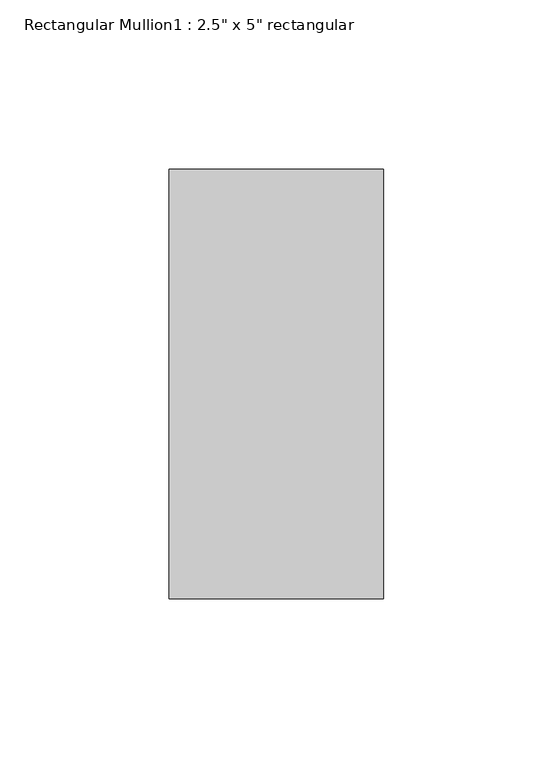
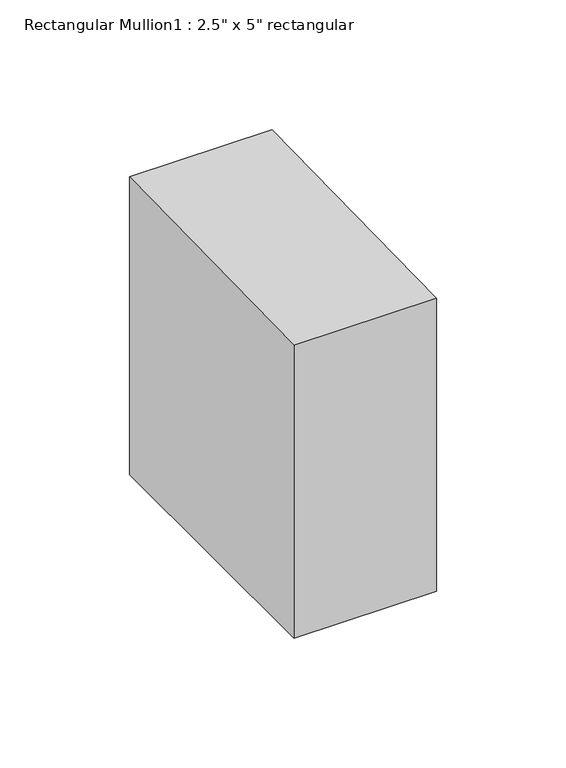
"""IFC4 building model written with IfcOpenShell, lengths in millimetres: member geometry."""

from ifc_helpers import new_model, si_unit, frame, origin, place, context, project, spatial, polyline, outline, extrude, source, transform, mapped, element, save


def member_b1809f7d(model_context):
    return source(origin(), model_context, "Body", "SweptSolid", [
        extrude(outline(polyline([(-63.5, -1.2595978), (63.5, 1.1843556), (63.5, -139.2998379), (-63.5, -139.2998379), (-63.5, -1.2595978)])), frame((-63.5, 0.0, 0.0), z_axis=(1.0, 0.0, 0.0), x_axis=(0.0, 1.0, 0.0)), (0.0, 0.0, 1.0), 63.5),
    ])


if __name__ == "__main__":
    model = new_model("IFC4")
    model_context = context("Model", 3, world=origin())
    ifc_project = project(units=[si_unit("LENGTHUNIT", "METRE", prefix="MILLI")], contexts=[model_context])
    site = spatial("IfcSite", under=ifc_project)
    building = spatial("IfcBuilding", under=site)
    placement = place(None, origin())
    member_shape = member_b1809f7d(model_context)
    element("IfcMember", 1, ObjectType="Rectangular Mullion1 : 2.5\" x 5\" rectangular", at=placement, inside=building, context=model_context, shape_type="MappedRepresentation", body=[
        mapped(member_shape, transform((0.0, 0.0, 0.0), x_axis=(1.0, 0.0, 0.0), y_axis=(0.0, 1.0, 0.0), z_axis=(0.0, 0.0, 1.0))),
    ])
    save(model, "model.ifc")
